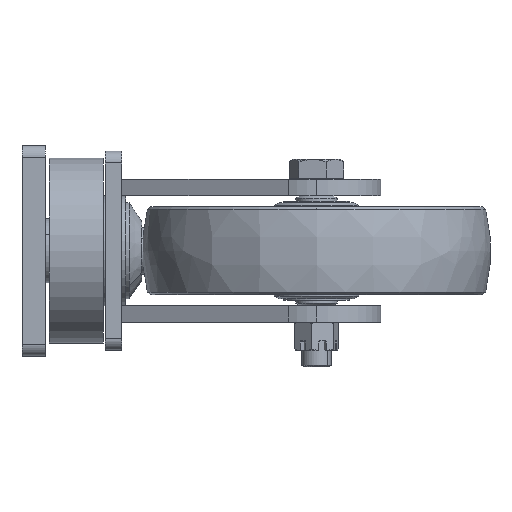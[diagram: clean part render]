
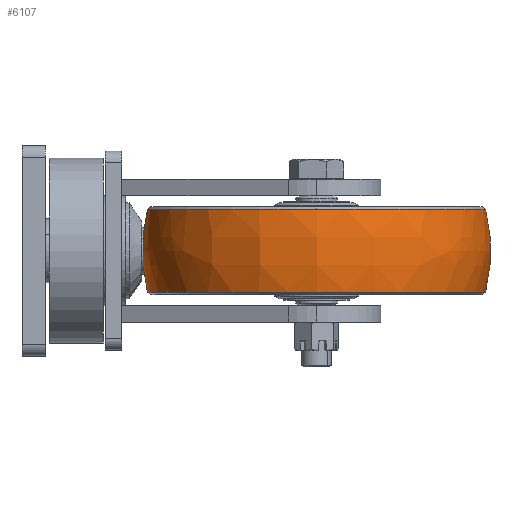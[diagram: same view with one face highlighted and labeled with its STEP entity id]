
A CAD part, left-side view. The second image highlights one B-rep face of the part: STEP entity #6107.
In plain terms, the highlighted free-form (B-spline) face has degree [3, 3] with [4, 4] control points.
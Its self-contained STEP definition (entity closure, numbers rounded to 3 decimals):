
#31 = ORIENTED_EDGE ( 'NONE', *, *, #3207, .F. ) ;
#106 = VERTEX_POINT ( 'NONE', #12452 ) ;
#286 = ORIENTED_EDGE ( 'NONE', *, *, #3753, .T. ) ;
#378 = AXIS2_PLACEMENT_3D ( 'NONE', #6509, #2436, #6554 ) ;
#416 = CARTESIAN_POINT ( 'NONE',  ( -57.494, -347.58, -12.022 ) ) ;
#477 = CARTESIAN_POINT ( 'NONE',  ( -57.494, -341.885, -35.383 ) ) ;
#553 = CIRCLE ( 'NONE', #1838, 144.532 ) ;
#827 = AXIS2_PLACEMENT_3D ( 'NONE', #9750, #3898, #3942 ) ;
#899 = EDGE_CURVE ( 'NONE', #106, #2842, #6973, .T. ) ;
#1216 = DIRECTION ( 'NONE',  ( 0., 0., -1. ) ) ;
#1838 = AXIS2_PLACEMENT_3D ( 'NONE', #9754, #6982, #3900 ) ;
#2155 = CARTESIAN_POINT ( 'NONE',  ( -346.559, -52.82, 35.383 ) ) ;
#2250 = CARTESIAN_POINT ( 'NONE',  ( -57.494, -47.125, 12.022 ) ) ;
#2436 = DIRECTION ( 'NONE',  ( -1., 0., 0. ) ) ;
#2533 = VERTEX_POINT ( 'NONE', #477 ) ;
#2842 = VERTEX_POINT ( 'NONE', #8274 ) ;
#3036 = CARTESIAN_POINT ( 'NONE',  ( -346.559, -341.885, -35.383 ) ) ;
#3133 = CARTESIAN_POINT ( 'NONE',  ( -57.494, -197.353, 35.383 ) ) ;
#3207 = EDGE_CURVE ( 'NONE', #106, #2533, #9455, .T. ) ;
#3250 = CARTESIAN_POINT ( 'NONE',  ( -357.949, -347.58, 12.022 ) ) ;
#3753 = EDGE_CURVE ( 'NONE', #2842, #10586, #553, .T. ) ;
#3898 = DIRECTION ( 'NONE',  ( 1., 0., 0. ) ) ;
#3900 = DIRECTION ( 'NONE',  ( 0., -1., 0. ) ) ;
#3942 = DIRECTION ( 'NONE',  ( 0., -1., 0. ) ) ;
#4134 = CARTESIAN_POINT ( 'NONE',  ( -57.494, -341.885, -35.383 ) ) ;
#5016 = CARTESIAN_POINT ( 'NONE',  ( -57.494, -347.58, 12.022 ) ) ;
#5095 = CARTESIAN_POINT ( 'NONE',  ( -346.559, -341.885, 35.383 ) ) ;
#5138 = CARTESIAN_POINT ( 'NONE',  ( -357.949, -47.125, 12.022 ) ) ;
#5752 = CARTESIAN_POINT ( 'NONE',  ( -57.494, -52.82, 35.383 ) ) ;
#6107 = ADVANCED_FACE ( 'NONE', ( #6508 ), #7381, .T. ) ;
#6508 = FACE_OUTER_BOUND ( 'NONE', #11297, .T. ) ;
#6509 = CARTESIAN_POINT ( 'NONE',  ( -57.494, -197.961, 0. ) ) ;
#6554 = DIRECTION ( 'NONE',  ( 0., 1., 0. ) ) ;
#6973 = CIRCLE ( 'NONE', #9130, 144.532 ) ;
#6982 = DIRECTION ( 'NONE',  ( 0., 0., -1. ) ) ;
#7065 = AXIS2_PLACEMENT_3D ( 'NONE', #12141, #8117, #9081 ) ;
#7381 =( BOUNDED_SURFACE ( )  B_SPLINE_SURFACE ( 3, 3, ( 
 ( #7994, #2155, #5095, #10934 ),
 ( #2250, #5138, #3250, #5016 ),
 ( #7957, #11844, #8916, #416 ),
 ( #7557, #9377, #3036, #4134 ) ),
 .UNSPECIFIED., .F., .F., .F. ) 
 B_SPLINE_SURFACE_WITH_KNOTS ( ( 4, 4 ),
 ( 4, 4 ),
 ( 0., 1. ),
 ( 0., 1. ),
 .UNSPECIFIED. ) 
 GEOMETRIC_REPRESENTATION_ITEM ( )  RATIONAL_B_SPLINE_SURFACE ( (
 ( 1., 0.333, 0.333, 1.),
 ( 0.981, 0.327, 0.327, 0.981),
 ( 0.981, 0.327, 0.327, 0.981),
 ( 1., 0.333, 0.333, 1.) ) ) 
 REPRESENTATION_ITEM ( '' )  SURFACE ( )  );
#7462 = CARTESIAN_POINT ( 'NONE',  ( -57.494, -52.82, -35.383 ) ) ;
#7557 = CARTESIAN_POINT ( 'NONE',  ( -57.494, -52.82, -35.383 ) ) ;
#7792 = ORIENTED_EDGE ( 'NONE', *, *, #8815, .T. ) ;
#7957 = CARTESIAN_POINT ( 'NONE',  ( -57.494, -47.125, -12.022 ) ) ;
#7994 = CARTESIAN_POINT ( 'NONE',  ( -57.494, -52.82, 35.383 ) ) ;
#8117 = DIRECTION ( 'NONE',  ( 0., 0., 1. ) ) ;
#8274 = CARTESIAN_POINT ( 'NONE',  ( -202.026, -197.353, 35.383 ) ) ;
#8596 = CIRCLE ( 'NONE', #7065, 144.532 ) ;
#8815 = EDGE_CURVE ( 'NONE', #10586, #12541, #10162, .T. ) ;
#8916 = CARTESIAN_POINT ( 'NONE',  ( -357.949, -347.58, -12.023 ) ) ;
#9081 = DIRECTION ( 'NONE',  ( 0., -1., 0. ) ) ;
#9130 = AXIS2_PLACEMENT_3D ( 'NONE', #3133, #1216, #11115 ) ;
#9377 = CARTESIAN_POINT ( 'NONE',  ( -346.559, -52.82, -35.383 ) ) ;
#9455 = CIRCLE ( 'NONE', #827, 149.392 ) ;
#9750 = CARTESIAN_POINT ( 'NONE',  ( -57.494, -196.744, 0. ) ) ;
#9754 = CARTESIAN_POINT ( 'NONE',  ( -57.494, -197.353, 35.383 ) ) ;
#10162 = CIRCLE ( 'NONE', #378, 149.392 ) ;
#10334 = EDGE_CURVE ( 'NONE', #12541, #2533, #8596, .T. ) ;
#10586 = VERTEX_POINT ( 'NONE', #5752 ) ;
#10934 = CARTESIAN_POINT ( 'NONE',  ( -57.494, -341.885, 35.383 ) ) ;
#11115 = DIRECTION ( 'NONE',  ( 0., -1., 0. ) ) ;
#11143 = ORIENTED_EDGE ( 'NONE', *, *, #899, .T. ) ;
#11181 = ORIENTED_EDGE ( 'NONE', *, *, #10334, .T. ) ;
#11297 = EDGE_LOOP ( 'NONE', ( #286, #7792, #11181, #31, #11143 ) ) ;
#11844 = CARTESIAN_POINT ( 'NONE',  ( -357.949, -47.125, -12.023 ) ) ;
#12141 = CARTESIAN_POINT ( 'NONE',  ( -57.494, -197.353, -35.383 ) ) ;
#12452 = CARTESIAN_POINT ( 'NONE',  ( -57.494, -341.885, 35.383 ) ) ;
#12541 = VERTEX_POINT ( 'NONE', #7462 ) ;
